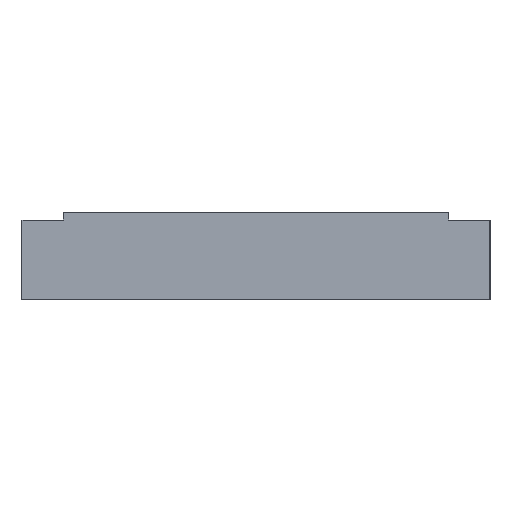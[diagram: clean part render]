
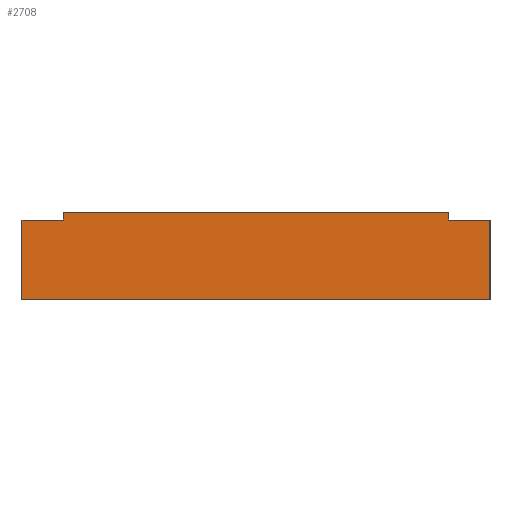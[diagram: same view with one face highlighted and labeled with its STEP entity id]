
A CAD part, left-side view. The second image highlights one B-rep face of the part: STEP entity #2708.
In plain terms, the highlighted planar face has unit normal (-1, 0, 0).
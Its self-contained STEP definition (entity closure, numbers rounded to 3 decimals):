
#9 = VERTEX_POINT ( 'NONE', #1500 ) ;
#46 = VERTEX_POINT ( 'NONE', #3521 ) ;
#58 = DIRECTION ( 'NONE',  ( 0., 0., -1. ) ) ;
#209 = CARTESIAN_POINT ( 'NONE',  ( -88., 51.5, 23.2 ) ) ;
#318 = LINE ( 'NONE', #209, #3310 ) ;
#357 = CARTESIAN_POINT ( 'NONE',  ( -88., -62.5, 0. ) ) ;
#368 = CARTESIAN_POINT ( 'NONE',  ( -88., -51.5, 23.2 ) ) ;
#571 = LINE ( 'NONE', #2357, #667 ) ;
#623 = PLANE ( 'NONE',  #3060 ) ;
#667 = VECTOR ( 'NONE', #936, 1000. ) ;
#735 = CARTESIAN_POINT ( 'NONE',  ( -88., -51.5, 21.2 ) ) ;
#818 = LINE ( 'NONE', #2822, #2990 ) ;
#835 = LINE ( 'NONE', #1237, #1892 ) ;
#936 = DIRECTION ( 'NONE',  ( 0., -1., 0. ) ) ;
#1007 = LINE ( 'NONE', #2826, #3756 ) ;
#1076 = VERTEX_POINT ( 'NONE', #3149 ) ;
#1178 = EDGE_CURVE ( 'NONE', #1076, #2838, #835, .T. ) ;
#1237 = CARTESIAN_POINT ( 'NONE',  ( -88., 62.5, 0. ) ) ;
#1254 = DIRECTION ( 'NONE',  ( 0., 0., -1. ) ) ;
#1264 = EDGE_CURVE ( 'NONE', #2910, #3128, #571, .T. ) ;
#1359 = VERTEX_POINT ( 'NONE', #3267 ) ;
#1500 = CARTESIAN_POINT ( 'NONE',  ( -88., 51.5, 23.2 ) ) ;
#1586 = FACE_OUTER_BOUND ( 'NONE', #2427, .T. ) ;
#1588 = EDGE_CURVE ( 'NONE', #46, #1903, #1007, .T. ) ;
#1590 = ORIENTED_EDGE ( 'NONE', *, *, #1264, .F. ) ;
#1646 = DIRECTION ( 'NONE',  ( 0., 0., -1. ) ) ;
#1720 = DIRECTION ( 'NONE',  ( 0., -1., 0. ) ) ;
#1733 = DIRECTION ( 'NONE',  ( 0., 1., 0. ) ) ;
#1809 = VECTOR ( 'NONE', #1646, 1000. ) ;
#1816 = LINE ( 'NONE', #368, #2531 ) ;
#1892 = VECTOR ( 'NONE', #2097, 1000. ) ;
#1903 = VERTEX_POINT ( 'NONE', #3173 ) ;
#1967 = DIRECTION ( 'NONE',  ( 0., 0., -1. ) ) ;
#2097 = DIRECTION ( 'NONE',  ( 0., -1., 0. ) ) ;
#2130 = LINE ( 'NONE', #2222, #1809 ) ;
#2153 = EDGE_CURVE ( 'NONE', #3128, #2838, #2130, .T. ) ;
#2163 = ORIENTED_EDGE ( 'NONE', *, *, #2766, .T. ) ;
#2222 = CARTESIAN_POINT ( 'NONE',  ( -88., -62.5, 21.2 ) ) ;
#2246 = ORIENTED_EDGE ( 'NONE', *, *, #2413, .F. ) ;
#2247 = VECTOR ( 'NONE', #58, 1000. ) ;
#2340 = ORIENTED_EDGE ( 'NONE', *, *, #2153, .F. ) ;
#2357 = CARTESIAN_POINT ( 'NONE',  ( -88., 62.5, 21.2 ) ) ;
#2401 = LINE ( 'NONE', #2713, #2247 ) ;
#2413 = EDGE_CURVE ( 'NONE', #9, #1359, #318, .T. ) ;
#2427 = EDGE_LOOP ( 'NONE', ( #2433, #2340, #1590, #2764, #2246, #2435, #3529, #2163 ) ) ;
#2433 = ORIENTED_EDGE ( 'NONE', *, *, #1178, .T. ) ;
#2435 = ORIENTED_EDGE ( 'NONE', *, *, #2486, .T. ) ;
#2486 = EDGE_CURVE ( 'NONE', #9, #1903, #818, .T. ) ;
#2531 = VECTOR ( 'NONE', #1254, 1000. ) ;
#2708 = ADVANCED_FACE ( 'NONE', ( #1586 ), #623, .F. ) ;
#2713 = CARTESIAN_POINT ( 'NONE',  ( -88., 62.5, 21.2 ) ) ;
#2764 = ORIENTED_EDGE ( 'NONE', *, *, #2797, .F. ) ;
#2766 = EDGE_CURVE ( 'NONE', #46, #1076, #2401, .T. ) ;
#2797 = EDGE_CURVE ( 'NONE', #1359, #2910, #1816, .T. ) ;
#2815 = DIRECTION ( 'NONE',  ( 0., -1., 0. ) ) ;
#2822 = CARTESIAN_POINT ( 'NONE',  ( -88., 51.5, 23.2 ) ) ;
#2826 = CARTESIAN_POINT ( 'NONE',  ( -88., 62.5, 21.2 ) ) ;
#2838 = VERTEX_POINT ( 'NONE', #357 ) ;
#2910 = VERTEX_POINT ( 'NONE', #735 ) ;
#2990 = VECTOR ( 'NONE', #1967, 1000. ) ;
#3060 = AXIS2_PLACEMENT_3D ( 'NONE', #3509, #3479, #1733 ) ;
#3128 = VERTEX_POINT ( 'NONE', #3677 ) ;
#3149 = CARTESIAN_POINT ( 'NONE',  ( -88., 62.5, 0. ) ) ;
#3173 = CARTESIAN_POINT ( 'NONE',  ( -88., 51.5, 21.2 ) ) ;
#3267 = CARTESIAN_POINT ( 'NONE',  ( -88., -51.5, 23.2 ) ) ;
#3310 = VECTOR ( 'NONE', #2815, 1000. ) ;
#3479 = DIRECTION ( 'NONE',  ( 1., 0., 0. ) ) ;
#3509 = CARTESIAN_POINT ( 'NONE',  ( -88., 62.5, 21.2 ) ) ;
#3521 = CARTESIAN_POINT ( 'NONE',  ( -88., 62.5, 21.2 ) ) ;
#3529 = ORIENTED_EDGE ( 'NONE', *, *, #1588, .F. ) ;
#3677 = CARTESIAN_POINT ( 'NONE',  ( -88., -62.5, 21.2 ) ) ;
#3756 = VECTOR ( 'NONE', #1720, 1000. ) ;
